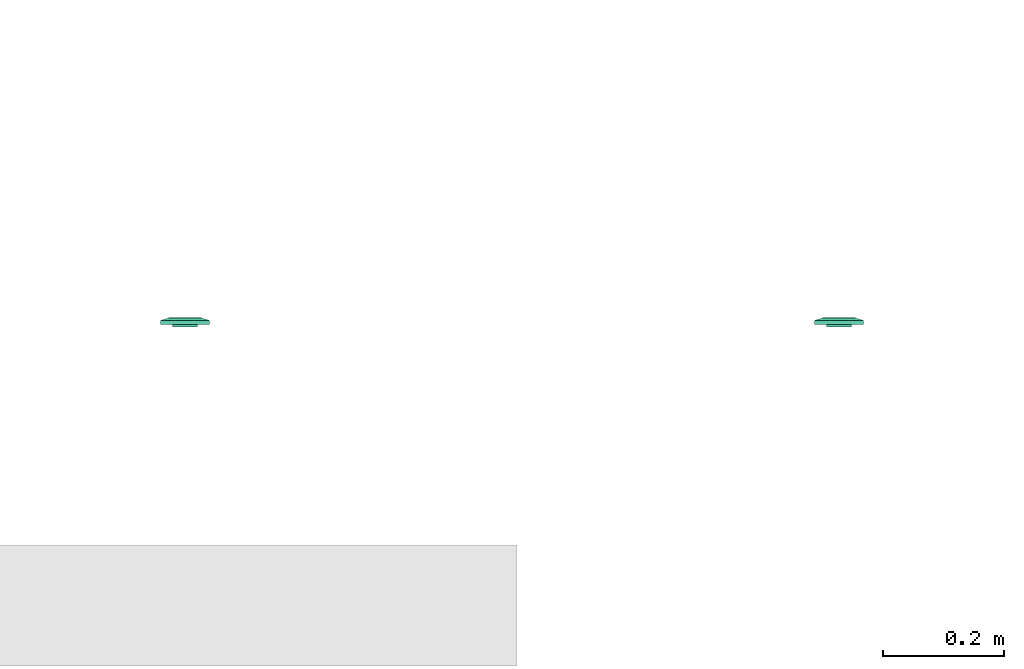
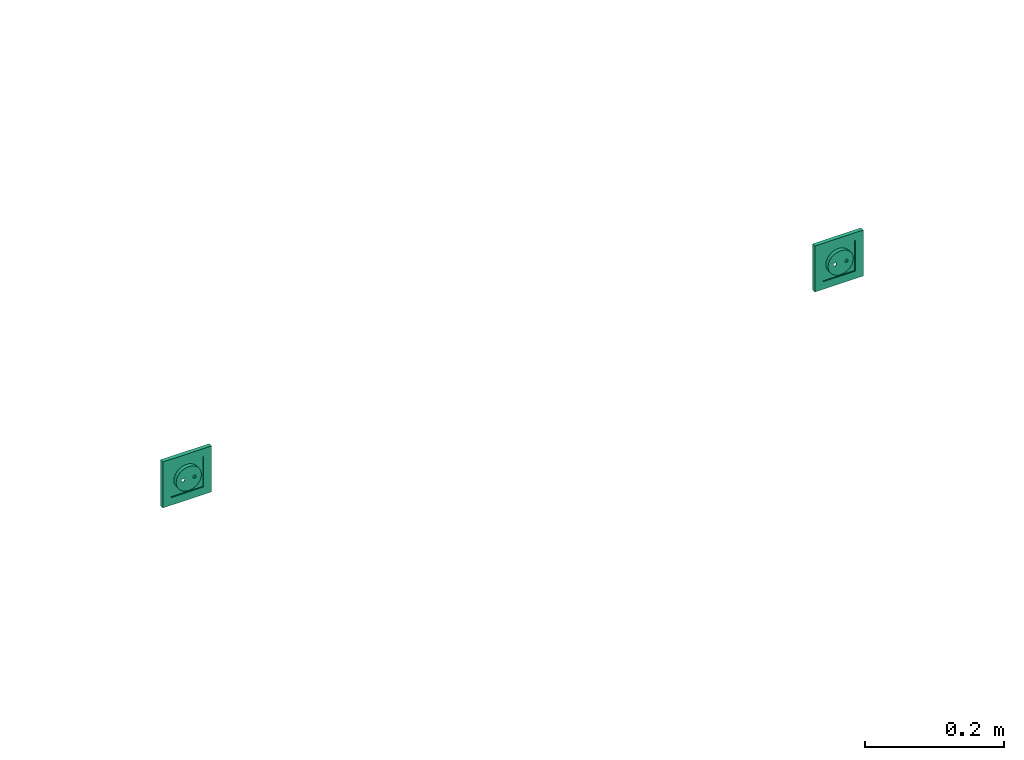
# One storey, part 53 of 153: 2 flow terminals.
"""IFC2X3 building model written with IfcOpenShell, lengths in metres."""

from ifc_helpers import new_model, entity, si_unit, converted_unit, derived_unit, direction, frame, origin, place, context, subcontext, project, spatial, face_set, surface_model, source, transform, mapped, type_object, type_shapes, element, save


model = new_model("IFC2X3")

# Units and contexts
model_context = context("Model", 3, precision=1e-05, world=origin(), true_north=direction((6.12303176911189e-17, 1.0)))
body_context = subcontext(model_context, "Body", "Model", "MODEL_VIEW")
ifc_project = project(units=[si_unit("LENGTHUNIT", "METRE"), si_unit("AREAUNIT", "SQUARE_METRE"), si_unit("VOLUMEUNIT", "CUBIC_METRE"), converted_unit("PLANEANGLEUNIT", "DEGREE", entity("IfcRatioMeasure", 0.0174532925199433), si_unit("PLANEANGLEUNIT", "RADIAN"), dimensions=[0, 0, 0, 0, 0, 0, 0]), si_unit("MASSUNIT", "GRAM", prefix="KILO"), derived_unit("MASSDENSITYUNIT", [(si_unit("MASSUNIT", "GRAM", prefix="KILO"), 1), (si_unit("LENGTHUNIT", "METRE"), -3)]), si_unit("TIMEUNIT", "SECOND"), si_unit("FREQUENCYUNIT", "HERTZ"), si_unit("THERMODYNAMICTEMPERATUREUNIT", "DEGREE_CELSIUS"), derived_unit("THERMALTRANSMITTANCEUNIT", [(si_unit("MASSUNIT", "GRAM", prefix="KILO"), 1), (si_unit("THERMODYNAMICTEMPERATUREUNIT", "KELVIN"), -1), (si_unit("TIMEUNIT", "SECOND"), -3)]), derived_unit("VOLUMETRICFLOWRATEUNIT", [(si_unit("LENGTHUNIT", "METRE"), 3), (si_unit("TIMEUNIT", "SECOND"), -1)]), si_unit("ELECTRICCURRENTUNIT", "AMPERE"), si_unit("ELECTRICVOLTAGEUNIT", "VOLT"), si_unit("POWERUNIT", "WATT"), si_unit("FORCEUNIT", "NEWTON"), si_unit("ILLUMINANCEUNIT", "LUX"), si_unit("LUMINOUSFLUXUNIT", "LUMEN"), si_unit("LUMINOUSINTENSITYUNIT", "CANDELA"), derived_unit("USERDEFINED", [(si_unit("MASSUNIT", "GRAM", prefix="KILO"), -1), (si_unit("LENGTHUNIT", "METRE"), -2), (si_unit("TIMEUNIT", "SECOND"), 3), (si_unit("LUMINOUSFLUXUNIT", "LUMEN"), 1)]), derived_unit("LINEARVELOCITYUNIT", [(si_unit("LENGTHUNIT", "METRE"), 1), (si_unit("TIMEUNIT", "SECOND"), -1)]), si_unit("PRESSUREUNIT", "PASCAL"), derived_unit("USERDEFINED", [(si_unit("LENGTHUNIT", "METRE"), -2), (si_unit("MASSUNIT", "GRAM", prefix="KILO"), 1), (si_unit("TIMEUNIT", "SECOND"), -2)])], contexts=[model_context])

# Site, building, storey
site_placement = place(None, origin())
site = spatial("IfcSite", under=ifc_project, at=site_placement, Name="Default", CompositionType="ELEMENT")
building_placement = place(site_placement, origin())
building = spatial("IfcBuilding", under=site, at=building_placement, CompositionType="ELEMENT")
storey_placement = place(building_placement, frame((0.0, 0.0, -4.62)))
storey = spatial("IfcBuildingStorey", under=building, at=storey_placement, Name="S02", CompositionType="ELEMENT", Elevation=-4.62)

# Flow terminals
light_fixture_type = type_object("IfcLightFixtureType", Name="Attente", PredefinedType="NOTDEFINED")
shared_shape = source(origin(), body_context, "Body", "SurfaceModel", [
    surface_model("IfcFaceBasedSurfaceModel", [(0.00225000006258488, 0.00949633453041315, 0.0127499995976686), (0.0, 0.00949633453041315, 0.0104999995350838), (0.0, 0.0101656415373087, 0.0115376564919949), (0.0, 0.0101656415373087, 0.0139623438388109), (0.0, 0.00984531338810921, 0.0144589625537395), (0.0, 0.0102778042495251, 0.0121178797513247), (0.0, 0.0102778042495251, 0.0133821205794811), (0.0, 0.010399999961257, 0.0127499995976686), (0.0, 0.00949633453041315, 0.0149999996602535), (-0.00225000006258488, 0.00949633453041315, 0.0127499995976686), (0.0, 0.00984531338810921, 0.0110410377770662), (0.0, 0.00949633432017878, 0.0127499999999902), (-0.0022499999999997, 0.0094963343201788, 0.0127499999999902), (-0.00217333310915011, 0.00949633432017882, 0.0121676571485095), (-0.0019485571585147, 0.00949633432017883, 0.0116249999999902), (-0.00159099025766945, 0.00949633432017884, 0.0111590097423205), (-0.00112499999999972, 0.00949633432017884, 0.0108014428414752), (-0.000582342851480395, 0.00949633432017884, 0.0105766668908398), (0.0, 0.00949633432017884, 0.0104999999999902), (0.000582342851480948, 0.00949633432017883, 0.0105766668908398), (0.00112500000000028, 0.00949633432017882, 0.0108014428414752), (0.00159099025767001, 0.00949633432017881, 0.0111590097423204), (0.00194855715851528, 0.00949633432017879, 0.0116249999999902), (0.0021733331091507, 0.00949633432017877, 0.0121676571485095), (0.0022500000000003, 0.00949633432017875, 0.0127499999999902), (0.00217333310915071, 0.00949633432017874, 0.0133323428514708), (0.0019485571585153, 0.00949633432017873, 0.0138749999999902), (0.00159099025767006, 0.00949633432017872, 0.0143409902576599), (0.00112500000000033, 0.00949633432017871, 0.0146985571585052), (0.000582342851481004, 0.00949633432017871, 0.0149233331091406), (0.0, 0.00949633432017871, 0.0149999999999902), (-0.000582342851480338, 0.00949633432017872, 0.0149233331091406), (-0.00112499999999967, 0.00949633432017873, 0.0146985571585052), (-0.00159099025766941, 0.00949633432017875, 0.0143409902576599), (-0.00194855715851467, 0.00949633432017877, 0.0138749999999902), (-0.00217333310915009, 0.00949633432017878, 0.0133323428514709), (-0.00224999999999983, -0.00360000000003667, 0.0127499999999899), (-0.00217333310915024, -0.00360000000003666, 0.0121676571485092), (-0.00194855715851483, -0.00360000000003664, 0.0116249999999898), (-0.00159099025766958, -0.00360000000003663, 0.0111590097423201), (-0.00112499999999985, -0.00360000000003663, 0.0108014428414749), (-0.000582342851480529, -0.00360000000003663, 0.0105766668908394), (0.0, -0.00360000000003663, 0.0104999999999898), (0.000582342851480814, -0.00360000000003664, 0.0105766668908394), (0.00112500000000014, -0.00360000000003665, 0.0108014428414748), (0.00159099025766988, -0.00360000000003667, 0.0111590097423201), (0.00194855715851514, -0.00360000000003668, 0.0116249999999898), (0.00217333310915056, -0.0036000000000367, 0.0121676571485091), (0.00225000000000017, -0.00360000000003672, 0.0127499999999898), (0.00217333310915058, -0.00360000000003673, 0.0133323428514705), (0.00194855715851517, -0.00360000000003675, 0.0138749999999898), (0.00159099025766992, -0.00360000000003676, 0.0143409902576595), (0.00112500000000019, -0.00360000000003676, 0.0146985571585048), (0.00058234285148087, -0.00360000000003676, 0.0149233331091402), (0.0, -0.00360000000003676, 0.0149999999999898), (-0.000582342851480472, -0.00360000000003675, 0.0149233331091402), (-0.0011249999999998, -0.00360000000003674, 0.0146985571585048), (-0.00159099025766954, -0.00360000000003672, 0.0143409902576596), (-0.0019485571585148, -0.00360000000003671, 0.0138749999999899), (-0.00217333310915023, -0.00360000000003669, 0.0133323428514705), (-0.0270000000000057, 0.0113999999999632, 0.0269999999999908), (0.0269999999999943, 0.0113999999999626, 0.0269999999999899), (0.0269999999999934, 0.0113999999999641, -0.0270000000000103), (-0.0270000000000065, 0.0113999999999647, -0.0270000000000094), (0.0199999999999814, 0.0113999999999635, 0.0), (0.0193185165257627, 0.0113999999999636, -0.00517638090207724), (0.0173205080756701, 0.0113999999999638, -0.0100000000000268), (0.0141421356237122, 0.0113999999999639, -0.0141421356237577), (0.00999999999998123, 0.011399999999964, -0.0173205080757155), (0.00517638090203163, 0.0113999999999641, -0.019318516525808), (0.0, 0.0113999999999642, -0.0200000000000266), (-0.00517638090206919, 0.0113999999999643, -0.0193185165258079), (-0.0100000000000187, 0.0113999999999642, -0.0173205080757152), (-0.0141421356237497, 0.0113999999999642, -0.0141421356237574), (-0.0173205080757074, 0.0113999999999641, -0.0100000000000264), (-0.0193185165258, 0.011399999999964, -0.0051763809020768), (-0.0200000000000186, 0.0113999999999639, 0.0), (-0.0193185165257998, 0.0113999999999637, 0.00517638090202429), (-0.0173205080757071, 0.0113999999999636, 0.00999999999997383), (-0.0141421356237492, 0.0113999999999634, 0.0141421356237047), (-0.0100000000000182, 0.0113999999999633, 0.0173205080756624), (-0.00517638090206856, 0.0113999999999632, 0.0193185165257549), (0.0, 0.0113999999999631, 0.0199999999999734), (0.00517638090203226, 0.0113999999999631, 0.0193185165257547), (0.0099999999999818, 0.0113999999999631, 0.017320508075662), (0.0141421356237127, 0.0113999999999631, 0.0141421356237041), (0.0173205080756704, 0.0113999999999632, 0.00999999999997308), (0.0193185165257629, 0.0113999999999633, 0.00517638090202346), (-0.0270000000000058, 0.00199999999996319, 0.0269999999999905), (-0.0270000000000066, 0.00199999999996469, -0.0270000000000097), (0.0269999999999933, 0.00199999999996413, -0.0270000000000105), (0.0269999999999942, 0.00199999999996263, 0.0269999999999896), (-0.0210000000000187, 0.00199999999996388, 0.0), (-0.0202844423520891, 0.00199999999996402, -0.00543519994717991), (-0.0181865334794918, 0.00199999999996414, -0.0105000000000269), (-0.0148492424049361, 0.00199999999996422, -0.0148492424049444), (-0.0105000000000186, 0.00199999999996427, -0.0181865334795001), (-0.00543519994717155, 0.00199999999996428, -0.0202844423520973), (0.0, 0.00199999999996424, -0.0210000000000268), (0.00543519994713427, 0.00199999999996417, -0.0202844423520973), (0.0104999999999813, 0.00199999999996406, -0.0181865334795), (0.0148492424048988, 0.00199999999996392, -0.0148492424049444), (0.0181865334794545, 0.00199999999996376, -0.0105000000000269), (0.0202844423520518, 0.0019999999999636, -0.00543519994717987), (0.0209999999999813, 0.00199999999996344, 0.0), (0.0202844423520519, 0.0019999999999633, 0.0054351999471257), (0.0181865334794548, 0.00199999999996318, 0.0104999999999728), (0.0148492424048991, 0.00199999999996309, 0.0148492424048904), (0.0104999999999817, 0.00199999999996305, 0.0181865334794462), (0.00543519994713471, 0.00199999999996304, 0.0202844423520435), (0.0, 0.00199999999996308, 0.0209999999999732), (-0.00543519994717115, 0.00199999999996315, 0.0202844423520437), (-0.0105000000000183, 0.00199999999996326, 0.0181865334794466), (-0.0148492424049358, 0.0019999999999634, 0.014849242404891), (-0.0181865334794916, 0.00199999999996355, 0.0104999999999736), (-0.020284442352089, 0.00199999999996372, 0.00543519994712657), (-0.0200000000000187, -0.00360000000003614, 0.0), (-0.0193185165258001, -0.003600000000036, -0.00517638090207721), (-0.0173205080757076, -0.00360000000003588, -0.0100000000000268), (-0.0141421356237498, -0.0036000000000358, -0.0141421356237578), (-0.0100000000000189, -0.00360000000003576, -0.0173205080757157), (-0.00517638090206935, -0.00360000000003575, -0.0193185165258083), (0.0, -0.00360000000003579, -0.020000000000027), (0.00517638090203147, -0.00360000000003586, -0.0193185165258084), (0.00999999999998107, -0.00360000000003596, -0.0173205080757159), (0.0141421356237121, -0.00360000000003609, -0.0141421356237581), (0.0173205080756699, -0.00360000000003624, -0.0100000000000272), (0.0193185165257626, -0.0036000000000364, -0.00517638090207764), (0.0199999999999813, -0.00360000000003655, 0.0), (0.0193185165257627, -0.00360000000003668, 0.00517638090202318), (0.0173205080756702, -0.0036000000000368, 0.00999999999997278), (0.0141421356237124, -0.00360000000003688, 0.0141421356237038), (0.00999999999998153, -0.00360000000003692, 0.0173205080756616), (0.00517638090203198, -0.00360000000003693, 0.0193185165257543), (0.0, -0.0036000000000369, 0.019999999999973), (-0.00517638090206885, -0.00360000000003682, 0.0193185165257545), (-0.0100000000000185, -0.00360000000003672, 0.0173205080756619), (-0.0141421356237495, -0.00360000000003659, 0.0141421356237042), (-0.0173205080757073, -0.00360000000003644, 0.00999999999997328), (-0.0193185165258, -0.00360000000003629, 0.00517638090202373), (0.0123499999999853, -0.00360000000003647, 0.0), (0.0122562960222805, -0.00360000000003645, -0.000711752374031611), (0.0119815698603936, -0.00360000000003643, -0.00137499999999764), (0.0115445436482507, -0.00360000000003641, -0.00194454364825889), (0.0109749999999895, -0.00360000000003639, -0.00238156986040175), (0.0103117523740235, -0.00360000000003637, -0.00265629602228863), (0.00959999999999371, -0.00360000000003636, -0.00274999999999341), (0.00888824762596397, -0.00360000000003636, -0.00265629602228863), (0.00822499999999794, -0.00360000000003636, -0.00238156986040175), (0.00765545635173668, -0.00360000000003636, -0.00194454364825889), (0.00721843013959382, -0.00360000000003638, -0.00137499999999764), (0.00694370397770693, -0.00360000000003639, -0.000711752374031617), (0.00685000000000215, -0.00360000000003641, 0.0), (0.00694370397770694, -0.00360000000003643, 0.000711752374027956), (0.00721843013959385, -0.00360000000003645, 0.00137499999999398), (0.00765545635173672, -0.00360000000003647, 0.00194454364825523), (0.00822499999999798, -0.00360000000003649, 0.00238156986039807), (0.00888824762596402, -0.00360000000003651, 0.00265629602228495), (0.00959999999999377, -0.00360000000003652, 0.0027499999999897), (0.0103117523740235, -0.00360000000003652, 0.00265629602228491), (0.0109749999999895, -0.00360000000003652, 0.00238156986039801), (0.0115445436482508, -0.00360000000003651, 0.00194454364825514), (0.0119815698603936, -0.0036000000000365, 0.00137499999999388), (0.0122562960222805, -0.00360000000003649, 0.000711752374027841), (-0.00685000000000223, -0.00360000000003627, 0.0), (-0.00694370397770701, -0.00360000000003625, -0.000711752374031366), (-0.0072184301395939, -0.00360000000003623, -0.00137499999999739), (-0.00765545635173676, -0.00360000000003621, -0.00194454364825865), (-0.00822499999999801, -0.00360000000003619, -0.0023815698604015), (-0.00888824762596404, -0.00360000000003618, -0.00265629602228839), (-0.00959999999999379, -0.00360000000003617, -0.00274999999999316), (-0.0103117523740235, -0.00360000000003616, -0.00265629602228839), (-0.0109749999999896, -0.00360000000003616, -0.00238156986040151), (-0.0115445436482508, -0.00360000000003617, -0.00194454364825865), (-0.0119815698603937, -0.00360000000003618, -0.0013749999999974), (-0.0122562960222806, -0.0036000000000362, -0.000711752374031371), (-0.0123499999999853, -0.00360000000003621, 0.0), (-0.0122562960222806, -0.00360000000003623, 0.000711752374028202), (-0.0119815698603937, -0.00360000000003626, 0.00137499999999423), (-0.0115445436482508, -0.00360000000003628, 0.00194454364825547), (-0.0109749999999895, -0.00360000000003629, 0.00238156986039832), (-0.0103117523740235, -0.00360000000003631, 0.00265629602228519), (-0.00959999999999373, -0.00360000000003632, 0.00274999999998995), (-0.00888824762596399, -0.00360000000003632, 0.00265629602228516), (-0.00822499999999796, -0.00360000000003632, 0.00238156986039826), (-0.00765545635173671, -0.00360000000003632, 0.00194454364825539), (-0.00721843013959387, -0.0036000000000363, 0.00137499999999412), (-0.00694370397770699, -0.00360000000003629, 0.000711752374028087), (-0.0210000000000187, -0.00460000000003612, 0.0), (-0.0202844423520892, -0.00460000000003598, -0.00543519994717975), (-0.018186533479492, -0.00460000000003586, -0.0105000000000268), (-0.0148492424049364, -0.00460000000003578, -0.0148492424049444), (-0.0105000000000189, -0.00460000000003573, -0.0181865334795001), (-0.00543519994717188, -0.00460000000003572, -0.0202844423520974), (0.0, -0.00460000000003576, -0.021000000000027), (0.00543519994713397, -0.00460000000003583, -0.0202844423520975), (0.0104999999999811, -0.00460000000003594, -0.0181865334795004), (0.0148492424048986, -0.00460000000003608, -0.0148492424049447), (0.0181865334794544, -0.00460000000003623, -0.0105000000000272), (0.0202844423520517, -0.0046000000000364, -0.0054351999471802), (0.0209999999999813, -0.00460000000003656, 0.0), (0.0202844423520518, -0.0046000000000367, 0.00543519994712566), (0.0181865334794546, -0.00460000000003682, 0.0104999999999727), (0.014849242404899, -0.00460000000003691, 0.0148492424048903), (0.0104999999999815, -0.00460000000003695, 0.0181865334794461), (0.0054351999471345, -0.00460000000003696, 0.0202844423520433), (0.0, -0.00460000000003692, 0.020999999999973), (-0.00543519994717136, -0.00460000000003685, 0.0202844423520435), (-0.0105000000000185, -0.00460000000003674, 0.0181865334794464), (-0.014849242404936, -0.0046000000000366, 0.0148492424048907), (-0.0181865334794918, -0.00460000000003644, 0.0104999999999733), (-0.0202844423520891, -0.00460000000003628, 0.00543519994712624), (0.00685000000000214, -0.00460000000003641, 0.0), (0.00694370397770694, -0.00460000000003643, 0.000711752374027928), (0.00721843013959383, -0.00460000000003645, 0.00137499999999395), (0.0076554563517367, -0.00460000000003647, 0.0019445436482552), (0.00822499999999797, -0.00460000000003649, 0.00238156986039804), (0.00888824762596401, -0.0046000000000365, 0.00265629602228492), (0.00959999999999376, -0.00460000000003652, 0.00274999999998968), (0.0103117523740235, -0.00460000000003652, 0.00265629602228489), (0.0109749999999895, -0.00460000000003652, 0.00238156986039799), (0.0115445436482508, -0.00460000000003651, 0.00194454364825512), (0.0119815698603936, -0.0046000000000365, 0.00137499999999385), (0.0122562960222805, -0.00460000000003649, 0.000711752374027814), (0.0123499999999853, -0.00460000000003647, 0.0), (0.0122562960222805, -0.00460000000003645, -0.00071175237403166), (0.0119815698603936, -0.00460000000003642, -0.00137499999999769), (0.0115445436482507, -0.0046000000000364, -0.00194454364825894), (0.0109749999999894, -0.00460000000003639, -0.00238156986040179), (0.0103117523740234, -0.00460000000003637, -0.00265629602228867), (0.00959999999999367, -0.00460000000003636, -0.00274999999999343), (0.00888824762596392, -0.00460000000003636, -0.00265629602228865), (0.00822499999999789, -0.00460000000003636, -0.00238156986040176), (0.00765545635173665, -0.00460000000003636, -0.00194454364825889), (0.00721843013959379, -0.00460000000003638, -0.00137499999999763), (0.00694370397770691, -0.00460000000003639, -0.0007117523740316), (-0.0123499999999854, -0.00460000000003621, 0.0), (-0.0122562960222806, -0.00460000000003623, 0.000711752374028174), (-0.0119815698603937, -0.00460000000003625, 0.0013749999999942), (-0.0115445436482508, -0.00460000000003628, 0.00194454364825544), (-0.0109749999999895, -0.00460000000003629, 0.00238156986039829), (-0.0103117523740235, -0.00460000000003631, 0.00265629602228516), (-0.00959999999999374, -0.00460000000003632, 0.00274999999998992), (-0.008888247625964, -0.00460000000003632, 0.00265629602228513), (-0.00822499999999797, -0.00460000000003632, 0.00238156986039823), (-0.00765545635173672, -0.00460000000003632, 0.00194454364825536), (-0.00721843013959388, -0.0046000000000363, 0.0013749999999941), (-0.006943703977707, -0.00460000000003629, 0.000711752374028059), (-0.00685000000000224, -0.00460000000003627, 0.0), (-0.00694370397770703, -0.00460000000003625, -0.000711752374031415), (-0.00721843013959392, -0.00460000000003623, -0.00137499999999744), (-0.00765545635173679, -0.00460000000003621, -0.00194454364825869), (-0.00822499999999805, -0.00460000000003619, -0.00238156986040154), (-0.00888824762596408, -0.00460000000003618, -0.00265629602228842), (-0.00959999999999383, -0.00460000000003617, -0.00274999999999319), (-0.0103117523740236, -0.00460000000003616, -0.00265629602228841), (-0.0109749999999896, -0.00460000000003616, -0.00238156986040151), (-0.0115445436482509, -0.00460000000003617, -0.00194454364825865), (-0.0119815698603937, -0.00460000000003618, -0.00137499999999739), (-0.0122562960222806, -0.00460000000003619, -0.000711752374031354), (-0.0403499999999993, 0.00659999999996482, 0.0403499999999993), (-0.0403500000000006, 0.00659999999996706, -0.0403500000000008), (0.0403499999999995, 0.00659999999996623, -0.0403500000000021), (0.0403500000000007, 0.00659999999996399, 0.040349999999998), (-0.0269999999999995, 0.00659999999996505, 0.026999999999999), (0.0270000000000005, 0.0065999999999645, 0.0269999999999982), (0.0269999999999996, 0.006599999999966, -0.0270000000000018), (-0.0270000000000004, 0.00659999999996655, -0.027000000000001), (-0.0269999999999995, 0.0103999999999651, 0.0269999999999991), (0.0270000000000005, 0.0103999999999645, 0.0269999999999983), (0.0269999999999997, 0.010399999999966, -0.0270000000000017), (-0.0270000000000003, 0.0103999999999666, -0.0270000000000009), (-0.0403499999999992, 0.00659999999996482, 0.0403499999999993), (-0.0403500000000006, 0.00659999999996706, -0.0403500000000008), (0.0403499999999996, 0.00659999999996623, -0.0403500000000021), (0.0403500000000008, 0.00659999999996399, 0.040349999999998), (0.0270000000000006, 0.0065999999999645, 0.0269999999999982), (0.0269999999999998, 0.006599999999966, -0.0270000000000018), (-0.0270000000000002, 0.00659999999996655, -0.027000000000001), (-0.0269999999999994, 0.00659999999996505, 0.026999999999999), (-0.0403499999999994, 0.0, 0.0403499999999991), (-0.0403500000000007, 0.0, -0.040350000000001), (0.0403499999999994, 0.0, -0.0403500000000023), (0.0403500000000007, 0.0, 0.0403499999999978), (-0.0269999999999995, 0.0, 0.0269999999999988), (0.0270000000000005, 0.0, 0.026999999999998), (0.0269999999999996, 0.0, -0.027000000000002), (-0.0270000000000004, 0.0, -0.0270000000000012)], [face_set([[[0, 1, 2]], [[3, 4, 2, 5]], [[6, 3, 5, 7]], [[2, 4, 0]], [[4, 8, 0]], [[3, 9, 8]], [[1, 9, 10]], [[2, 3, 6, 7]], [[3, 10, 9]], [[2, 10, 3]], [[11, 1, 0, 8]], [[11, 8, 9, 1]]]), face_set([[[12, 13, 14, 15, 16, 17, 18, 19, 20, 21, 22, 23, 24, 25, 26, 27, 28, 29, 30, 31, 32, 33, 34, 35]], [[36, 37, 38, 39, 40, 41, 42, 43, 44, 45, 46, 47, 48, 49, 50, 51, 52, 53, 54, 55, 56, 57, 58, 59]], [[48, 47, 23, 24]], [[47, 46, 22, 23]], [[45, 44, 20, 21]], [[46, 45, 21, 22]], [[44, 43, 19, 20]], [[18, 19, 43, 42]], [[42, 41, 17, 18]], [[41, 40, 16, 17]], [[39, 38, 14, 15]], [[40, 39, 15, 16]], [[38, 37, 13, 14]], [[12, 13, 37, 36]], [[36, 59, 35, 12]], [[59, 58, 34, 35]], [[57, 56, 32, 33]], [[58, 57, 33, 34]], [[56, 55, 31, 32]], [[30, 31, 55, 54]], [[54, 53, 29, 30]], [[53, 52, 28, 29]], [[51, 50, 26, 27]], [[52, 51, 27, 28]], [[50, 49, 25, 26]], [[24, 25, 49, 48]]]), face_set([[[60, 61, 62, 63], [64, 65, 66, 67, 68, 69, 70, 71, 72, 73, 74, 75, 76, 77, 78, 79, 80, 81, 82, 83, 84, 85, 86, 87]], [[88, 89, 90, 91], [92, 93, 94, 95, 96, 97, 98, 99, 100, 101, 102, 103, 104, 105, 106, 107, 108, 109, 110, 111, 112, 113, 114, 115]], [[61, 60, 88, 91]], [[62, 61, 91, 90]], [[63, 62, 90, 89]], [[60, 63, 89, 88]], [[116, 117, 118, 119, 120, 121, 122, 123, 124, 125, 126, 127, 128, 129, 130, 131, 132, 133, 134, 135, 136, 137, 138, 139], [140, 141, 142, 143, 144, 145, 146, 147, 148, 149, 150, 151, 152, 153, 154, 155, 156, 157, 158, 159, 160, 161, 162, 163], [164, 165, 166, 167, 168, 169, 170, 171, 172, 173, 174, 175, 176, 177, 178, 179, 180, 181, 182, 183, 184, 185, 186, 187]], [[64, 128, 127, 65]], [[65, 127, 126, 66]], [[67, 125, 124, 68]], [[66, 126, 125, 67]], [[68, 124, 123, 69]], [[122, 70, 69, 123]], [[70, 122, 121, 71]], [[71, 121, 120, 72]], [[73, 119, 118, 74]], [[72, 120, 119, 73]], [[74, 118, 117, 75]], [[116, 76, 75, 117]], [[76, 116, 139, 77]], [[77, 139, 138, 78]], [[79, 137, 136, 80]], [[78, 138, 137, 79]], [[80, 136, 135, 81]], [[134, 82, 81, 135]], [[82, 134, 133, 83]], [[83, 133, 132, 84]], [[84, 132, 131, 85]], [[85, 131, 130, 86]], [[130, 129, 87, 86]], [[64, 87, 129, 128]], [[188, 189, 190, 191, 192, 193, 194, 195, 196, 197, 198, 199, 200, 201, 202, 203, 204, 205, 206, 207, 208, 209, 210, 211], [212, 213, 214, 215, 216, 217, 218, 219, 220, 221, 222, 223, 224, 225, 226, 227, 228, 229, 230, 231, 232, 233, 234, 235], [236, 237, 238, 239, 240, 241, 242, 243, 244, 245, 246, 247, 248, 249, 250, 251, 252, 253, 254, 255, 256, 257, 258, 259]], [[200, 199, 103, 104]], [[199, 198, 102, 103]], [[197, 196, 100, 101]], [[198, 197, 101, 102]], [[196, 195, 99, 100]], [[98, 99, 195, 194]], [[194, 193, 97, 98]], [[193, 192, 96, 97]], [[191, 190, 94, 95]], [[192, 191, 95, 96]], [[190, 189, 93, 94]], [[92, 93, 189, 188]], [[188, 211, 115, 92]], [[211, 210, 114, 115]], [[209, 208, 112, 113]], [[210, 209, 113, 114]], [[208, 207, 111, 112]], [[110, 111, 207, 206]], [[206, 205, 109, 110]], [[205, 204, 108, 109]], [[203, 202, 106, 107]], [[204, 203, 107, 108]], [[202, 201, 105, 106]], [[104, 105, 201, 200]], [[141, 225, 226, 142]], [[140, 224, 225, 141]], [[144, 228, 229, 145]], [[143, 227, 228, 144]], [[142, 226, 227, 143]], [[230, 146, 145, 229]], [[149, 233, 232, 148]], [[148, 232, 231, 147]], [[152, 212, 235, 151]], [[151, 235, 234, 150]], [[150, 234, 233, 149]], [[146, 230, 231, 147]], [[154, 214, 213, 153]], [[153, 213, 212, 152]], [[157, 217, 216, 156]], [[156, 216, 215, 155]], [[155, 215, 214, 154]], [[218, 158, 157, 217]], [[160, 220, 221, 161]], [[159, 219, 220, 160]], [[163, 223, 224, 140]], [[162, 222, 223, 163]], [[161, 221, 222, 162]], [[158, 218, 219, 159]], [[166, 250, 249, 165]], [[165, 249, 248, 164]], [[169, 253, 252, 168]], [[168, 252, 251, 167]], [[167, 251, 250, 166]], [[254, 170, 169, 253]], [[172, 256, 257, 173]], [[171, 255, 256, 172]], [[175, 259, 236, 176]], [[174, 258, 259, 175]], [[173, 257, 258, 174]], [[170, 254, 255, 171]], [[177, 237, 238, 178]], [[176, 236, 237, 177]], [[180, 240, 241, 181]], [[179, 239, 240, 180]], [[178, 238, 239, 179]], [[242, 182, 181, 241]], [[185, 245, 244, 184]], [[184, 244, 243, 183]], [[164, 248, 247, 187]], [[187, 247, 246, 186]], [[186, 246, 245, 185]], [[182, 242, 243, 183]]]), face_set([[[260, 261, 262, 263], [264, 265, 266, 267]], [[260, 268, 269, 263]], [[263, 269, 270, 262]], [[262, 270, 271, 261]], [[261, 271, 268, 260]], [[264, 265, 269, 268]], [[265, 266, 270, 269]], [[266, 267, 271, 270]], [[268, 271, 267, 264]]]), face_set([[[272, 273, 274, 275], [276, 277, 278, 279]], [[280, 281, 282, 283], [284, 285, 286, 287]], [[275, 272, 280, 283]], [[274, 275, 283, 282]], [[273, 274, 282, 281]], [[272, 273, 281, 280]], [[284, 285, 276, 279]], [[285, 286, 277, 276]], [[286, 287, 278, 277]], [[279, 278, 287, 284]]])]),
])
type_shapes(light_fixture_type, [shared_shape])
for number, where, name in (
    (1, (36.9146865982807, -185.399100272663, 0.0), "INT_Attente électrique:Attente"),
    (2, (35.8327353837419, -185.399100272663, 0.0), "INT_Attente électrique:Attente"),
):
    element("IfcFlowTerminal", number, at=place(storey_placement, frame(where)), inside=storey, type_object=light_fixture_type, Name=name, ObjectType="INT_Attente électrique:Attente", context=body_context, shape_type="MappedRepresentation", body=[
        mapped(shared_shape, transform((0.0, 0.0, 0.0), scale=1.0)),
    ])

save(model, "model.ifc")
